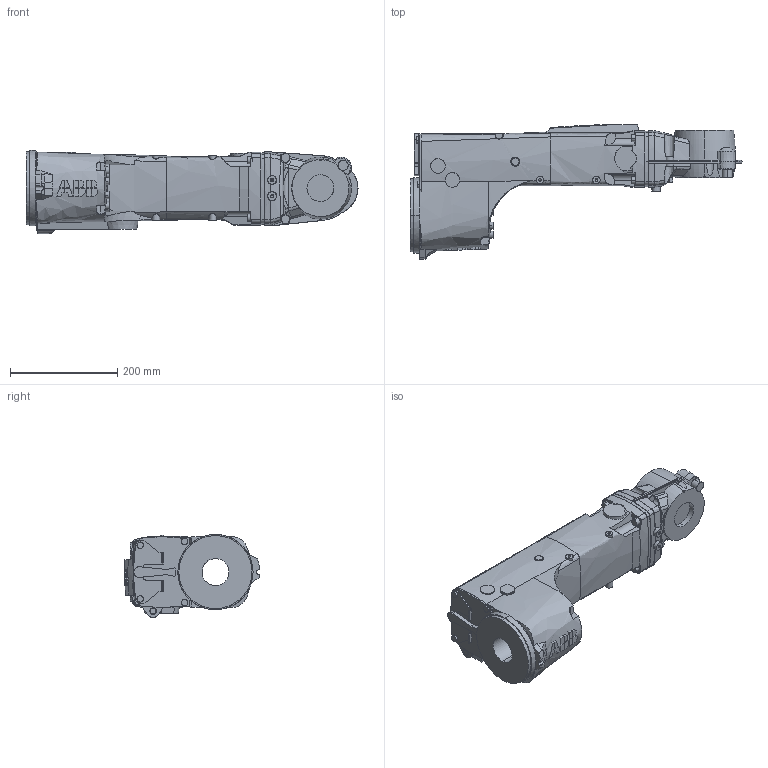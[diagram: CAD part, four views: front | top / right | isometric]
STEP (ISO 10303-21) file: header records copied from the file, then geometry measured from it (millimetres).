
FILE_DESCRIPTION (( 'STEP AP214' ), '1' );
FILE_NAME ('IRB2600ID_15kg-185_LINK4_CAD_rev02.STEP', '2016-12-02T13:00:11', ( 'ABB' ), ( 'ABB' ), 'SwSTEP 2.0', 'SolidWorks 2014', '' );
FILE_SCHEMA (( 'AUTOMOTIVE_DESIGN' ));
Length unit declared in the file: millimetre
Products named in the file (1): IRB2600ID_15kg-185_LINK4_CAD_rev02
Bounding box: 618 x 250.79 x 154.6 mm (x, y, z)
Volume: 8679780 mm3; surface area: 416383.1 mm2
Topology: 3 solids, 3 shells, 761 faces, 2089 edges, 1373 vertices
Faces by surface type: plane 401, cylinder 142, bspline 121, cone 77, torus 18, sphere 2
Entity records: 40637 total; most frequent: CARTESIAN_POINT 20943, ORIENTED_EDGE 4156, DIRECTION 2728, EDGE_CURVE 2078, VERTEX_POINT 1373, VECTOR 1042, LINE 1042, AXIS2_PLACEMENT_3D 843
